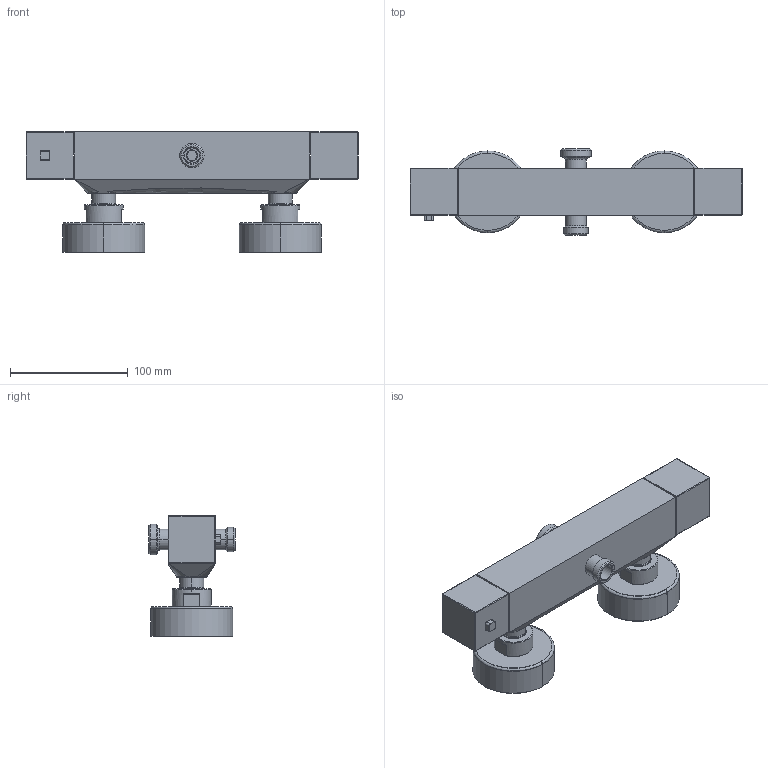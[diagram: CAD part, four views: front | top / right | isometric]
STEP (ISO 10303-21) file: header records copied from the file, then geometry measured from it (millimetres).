
FILE_DESCRIPTION((''),'2;1');
FILE_NAME('F4255_1_FILE_3D','2017-02-17T',('ivanv'),(''),'CREO PARAMETRIC BY PTC INC, 2015290','CREO PARAMETRIC BY PTC INC, 2015290','');
FILE_SCHEMA(('CONFIG_CONTROL_DESIGN'));
Length unit declared in the file: millimetre
Products named in the file (1): F4255_1_FILE_3D
Bounding box: 282 x 73.5 x 102 mm (x, y, z)
Volume: 246687.4 mm3; surface area: 136168 mm2
Topology: 3 solids, 3 shells, 1618 faces, 4235 edges, 2656 vertices
Faces by surface type: plane 672, cylinder 369, cone 182, extrusion 158, torus 104, bspline 95, sphere 38
Entity records: 74501 total; most frequent: CARTESIAN_POINT 36577, ORIENTED_EDGE 8338, DIRECTION 7134, EDGE_CURVE 4169, VERTEX_POINT 2631, AXIS2_PLACEMENT_3D 2483, VECTOR 2168, LINE 2010
